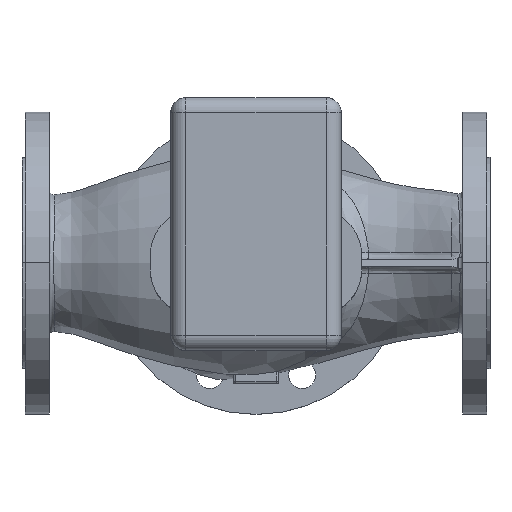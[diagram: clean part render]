
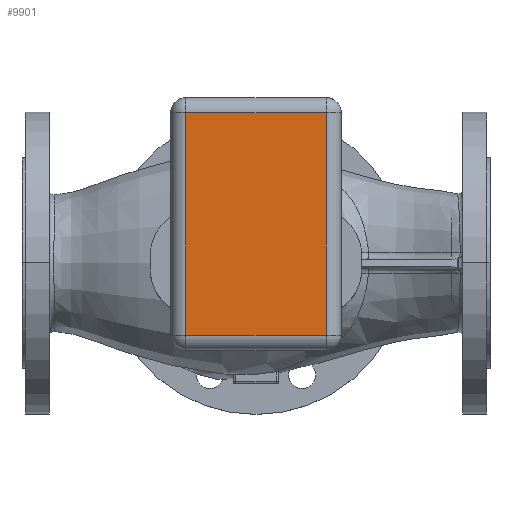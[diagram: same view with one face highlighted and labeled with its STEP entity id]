
A CAD part, top view. The second image highlights one B-rep face of the part: STEP entity #9901.
In plain terms, the highlighted planar face has unit normal (0, 0, 1).
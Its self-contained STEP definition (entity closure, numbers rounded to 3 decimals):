
#263 = ORIENTED_EDGE ( 'NONE', *, *, #5944, .T. ) ;
#514 = ORIENTED_EDGE ( 'NONE', *, *, #12231, .T. ) ;
#876 = DIRECTION ( 'NONE',  ( 0., 0., 1. ) ) ;
#1008 = CARTESIAN_POINT ( 'NONE',  ( -46.5, -48.5, 552.5 ) ) ;
#1838 = DIRECTION ( 'NONE',  ( 1., 0., 0. ) ) ;
#2054 = CARTESIAN_POINT ( 'NONE',  ( -46.5, -58.5, 552.5 ) ) ;
#2122 = DIRECTION ( 'NONE',  ( 0., -1., 0. ) ) ;
#2137 = EDGE_CURVE ( 'NONE', #3078, #11873, #5309, .T. ) ;
#2187 = LINE ( 'NONE', #10667, #4388 ) ;
#2234 = CARTESIAN_POINT ( 'NONE',  ( 46.5, 109., 552.5 ) ) ;
#2642 = VERTEX_POINT ( 'NONE', #1008 ) ;
#2689 = LINE ( 'NONE', #5051, #9069 ) ;
#3078 = VERTEX_POINT ( 'NONE', #3953 ) ;
#3112 = DIRECTION ( 'NONE',  ( 1., 0., 0. ) ) ;
#3596 = ORIENTED_EDGE ( 'NONE', *, *, #13336, .T. ) ;
#3953 = CARTESIAN_POINT ( 'NONE',  ( 46.5, -48.5, 552.5 ) ) ;
#4155 = FACE_OUTER_BOUND ( 'NONE', #11815, .T. ) ;
#4388 = VECTOR ( 'NONE', #7345, 1000. ) ;
#5051 = CARTESIAN_POINT ( 'NONE',  ( 56.5, -48.5, 552.5 ) ) ;
#5266 = LINE ( 'NONE', #2054, #9443 ) ;
#5309 = LINE ( 'NONE', #2234, #5877 ) ;
#5877 = VECTOR ( 'NONE', #10712, 1000. ) ;
#5944 = EDGE_CURVE ( 'NONE', #12502, #2642, #5266, .T. ) ;
#6092 = ORIENTED_EDGE ( 'NONE', *, *, #2137, .T. ) ;
#6762 = CARTESIAN_POINT ( 'NONE',  ( 46.5, 99., 552.5 ) ) ;
#7345 = DIRECTION ( 'NONE',  ( -1., 0., 0. ) ) ;
#7497 = AXIS2_PLACEMENT_3D ( 'NONE', #12677, #876, #3112 ) ;
#7828 = CARTESIAN_POINT ( 'NONE',  ( -46.5, 99., 552.5 ) ) ;
#8520 = PLANE ( 'NONE',  #7497 ) ;
#9069 = VECTOR ( 'NONE', #1838, 1000. ) ;
#9443 = VECTOR ( 'NONE', #2122, 1000. ) ;
#9901 = ADVANCED_FACE ( 'NONE', ( #4155 ), #8520, .T. ) ;
#10667 = CARTESIAN_POINT ( 'NONE',  ( -56.5, 99., 552.5 ) ) ;
#10712 = DIRECTION ( 'NONE',  ( 0., 1., 0. ) ) ;
#11815 = EDGE_LOOP ( 'NONE', ( #3596, #6092, #514, #263 ) ) ;
#11873 = VERTEX_POINT ( 'NONE', #6762 ) ;
#12231 = EDGE_CURVE ( 'NONE', #11873, #12502, #2187, .T. ) ;
#12502 = VERTEX_POINT ( 'NONE', #7828 ) ;
#12677 = CARTESIAN_POINT ( 'NONE',  ( 0., 0., 552.5 ) ) ;
#13336 = EDGE_CURVE ( 'NONE', #2642, #3078, #2689, .T. ) ;
